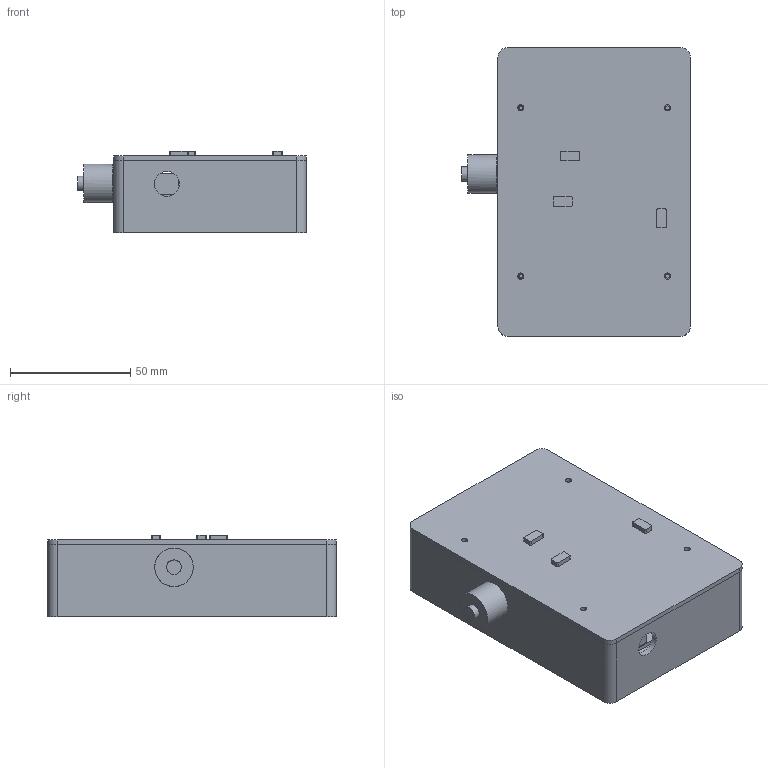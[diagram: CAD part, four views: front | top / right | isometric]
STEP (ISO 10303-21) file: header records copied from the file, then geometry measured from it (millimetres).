
FILE_DESCRIPTION(('Open CASCADE Model'),'2;1');
FILE_NAME('Open CASCADE Shape Model','2026-09-11T05:12:42',('Author'),( 'Open CASCADE'),'Open CASCADE STEP processor 7.9','Open CASCADE 7.9' ,'Unknown');
FILE_SCHEMA(('AUTOMOTIVE_DESIGN { 1 0 10303 214 1 1 1 1 }'));
Length unit declared in the file: millimetre
Products named in the file (21): AMP44_REVC_DIGITAL_FIT_PROTOTYPE; base; lid; pcb; battery_max_proxy; bal_out_body; bal_in_body; se_in_body; usb_c_body; volume_body; volume_shaft; volume_knob; SW201_body; SW201_actuator; SW201_extension; SW202_body; SW202_actuator; SW202_extension; SW401_body; SW401_actuator; SW401_extension
Assembly tree (20 placements, depth 2):
  AMP44_REVC_DIGITAL_FIT_PROTOTYPE
    base
    lid
    pcb
    battery_max_proxy
    bal_out_body
    bal_in_body
    se_in_body
    usb_c_body
    volume_body
    volume_shaft
    volume_knob
    SW201_body
    SW201_actuator
    SW201_extension
    SW202_body
    SW202_actuator
    SW202_extension
    SW401_body
    SW401_actuator
    SW401_extension
Bounding box: 95.1 x 120 x 34 mm (x, y, z)
Volume: 110331.4 mm3; surface area: 94398 mm2
Topology: 20 solids, 20 shells, 270 faces, 612 edges, 408 vertices
Faces by surface type: plane 211, cylinder 59
Full cylindrical faces by diameter (mm): 1.6 x4, 2.6 x8, 5.8 x4, 6 x1, 6.4 x4, 9.2 x1, 10.4 x2, 11 x1, 16 x1
Entity records: 15902 total; most frequent: CARTESIAN_POINT 2987, DIRECTION 2356, LINE 1468, VECTOR 1468, ORIENTED_EDGE 1224, PCURVE 1224, DEFINITIONAL_REPRESENTATION 1224, EDGE_CURVE 612
